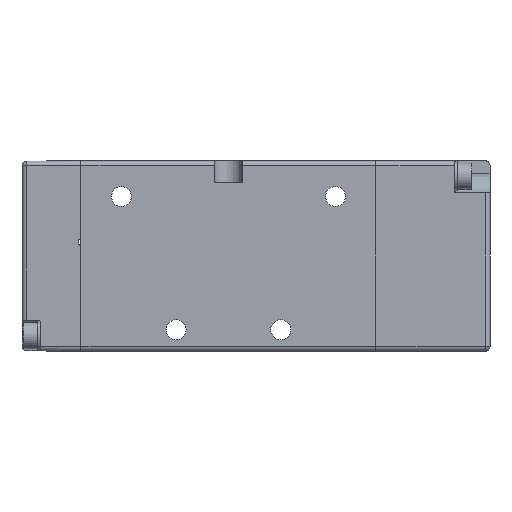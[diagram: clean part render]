
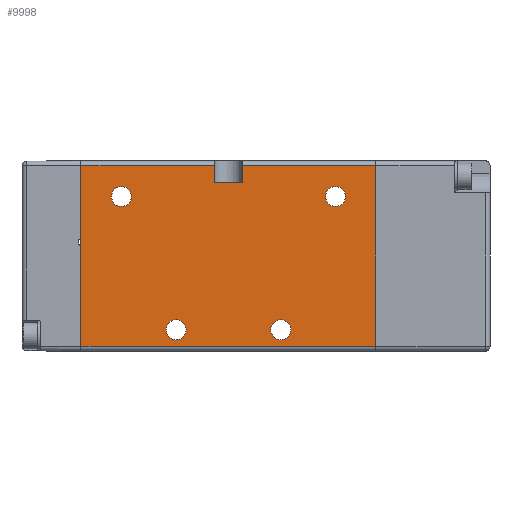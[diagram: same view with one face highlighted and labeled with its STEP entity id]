
A CAD part, front view. The second image highlights one B-rep face of the part: STEP entity #9998.
In plain terms, the highlighted planar face has unit normal (0, -1, 0).
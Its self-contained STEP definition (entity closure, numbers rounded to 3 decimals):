
#254 = LINE ( 'NONE', #3407, #2495 ) ;
#332 = EDGE_LOOP ( 'NONE', ( #2890 ) ) ;
#664 = DIRECTION ( 'NONE',  ( 0., -1., 0. ) ) ;
#776 = DIRECTION ( 'NONE',  ( 1., 0., 0. ) ) ;
#826 = EDGE_CURVE ( 'NONE', #9227, #966, #7982, .T. ) ;
#966 = VERTEX_POINT ( 'NONE', #3058 ) ;
#1048 = DIRECTION ( 'NONE',  ( 1., 0., 0. ) ) ;
#1065 = CARTESIAN_POINT ( 'NONE',  ( -92.353, -11., -22.9 ) ) ;
#1124 = LINE ( 'NONE', #7132, #9750 ) ;
#1270 = CARTESIAN_POINT ( 'NONE',  ( -12.702, -11., 16.1 ) ) ;
#1311 = EDGE_LOOP ( 'NONE', ( #5613, #5784, #1761, #9463, #10771, #6931, #4910, #9849 ) ) ;
#1378 = DIRECTION ( 'NONE',  ( 0., 0., 1. ) ) ;
#1389 = VERTEX_POINT ( 'NONE', #7060 ) ;
#1518 = DIRECTION ( 'NONE',  ( 1., 0., 0. ) ) ;
#1567 = EDGE_CURVE ( 'NONE', #6389, #6389, #9503, .T. ) ;
#1618 = VECTOR ( 'NONE', #3776, 1000. ) ;
#1701 = EDGE_CURVE ( 'NONE', #6614, #9054, #4370, .T. ) ;
#1715 = CARTESIAN_POINT ( 'NONE',  ( 15.298, -11., -22.9 ) ) ;
#1761 = ORIENTED_EDGE ( 'NONE', *, *, #4016, .T. ) ;
#1913 = DIRECTION ( 'NONE',  ( -1., 0., 0. ) ) ;
#2110 = DIRECTION ( 'NONE',  ( 0., 0., 1. ) ) ;
#2133 = FACE_BOUND ( 'NONE', #6177, .T. ) ;
#2187 = VECTOR ( 'NONE', #8373, 1000. ) ;
#2348 = VECTOR ( 'NONE', #1048, 1000. ) ;
#2385 = CARTESIAN_POINT ( 'NONE',  ( -46.702, -11., -21.9 ) ) ;
#2423 = CARTESIAN_POINT ( 'NONE',  ( -4.702, -11., -18.4 ) ) ;
#2495 = VECTOR ( 'NONE', #10099, 1000. ) ;
#2588 = CIRCLE ( 'NONE', #8910, 2.1 ) ;
#2589 = CARTESIAN_POINT ( 'NONE',  ( -92.353, -11., 16.1 ) ) ;
#2624 = LINE ( 'NONE', #5985, #2348 ) ;
#2748 = CIRCLE ( 'NONE', #9844, 2.1 ) ;
#2889 = EDGE_CURVE ( 'NONE', #6614, #9227, #254, .T. ) ;
#2890 = ORIENTED_EDGE ( 'NONE', *, *, #6668, .F. ) ;
#2898 = CARTESIAN_POINT ( 'NONE',  ( -2.602, -11., -18.4 ) ) ;
#2983 = EDGE_CURVE ( 'NONE', #1389, #7572, #2624, .T. ) ;
#3058 = CARTESIAN_POINT ( 'NONE',  ( 15.298, -11., 16.1 ) ) ;
#3115 = EDGE_CURVE ( 'NONE', #10083, #10083, #2748, .T. ) ;
#3243 = DIRECTION ( 'NONE',  ( 1., 0., 0. ) ) ;
#3319 = EDGE_CURVE ( 'NONE', #5603, #5603, #2588, .T. ) ;
#3407 = CARTESIAN_POINT ( 'NONE',  ( -92.353, -11., -21.9 ) ) ;
#3408 = DIRECTION ( 'NONE',  ( -1., 0., 0. ) ) ;
#3531 = VERTEX_POINT ( 'NONE', #1270 ) ;
#3600 = EDGE_CURVE ( 'NONE', #7572, #3531, #1124, .T. ) ;
#3771 = ORIENTED_EDGE ( 'NONE', *, *, #3115, .F. ) ;
#3776 = DIRECTION ( 'NONE',  ( 0., 0., 1. ) ) ;
#4016 = EDGE_CURVE ( 'NONE', #9869, #9054, #6425, .T. ) ;
#4049 = FACE_BOUND ( 'NONE', #8560, .T. ) ;
#4319 = FACE_BOUND ( 'NONE', #332, .T. ) ;
#4370 = LINE ( 'NONE', #8525, #2187 ) ;
#4401 = CARTESIAN_POINT ( 'NONE',  ( -24.602, -11., -18.4 ) ) ;
#4434 = CARTESIAN_POINT ( 'NONE',  ( 8.898, -11., 9.6 ) ) ;
#4465 = ORIENTED_EDGE ( 'NONE', *, *, #1567, .F. ) ;
#4490 = CARTESIAN_POINT ( 'NONE',  ( -46.702, -11., 16.1 ) ) ;
#4910 = ORIENTED_EDGE ( 'NONE', *, *, #8326, .T. ) ;
#5020 = CIRCLE ( 'NONE', #9745, 2.1 ) ;
#5079 = VECTOR ( 'NONE', #6509, 1000. ) ;
#5279 = CARTESIAN_POINT ( 'NONE',  ( -36.102, -11., 9.6 ) ) ;
#5603 = VERTEX_POINT ( 'NONE', #5279 ) ;
#5613 = ORIENTED_EDGE ( 'NONE', *, *, #2983, .F. ) ;
#5638 = CARTESIAN_POINT ( 'NONE',  ( 6.798, -11., 9.6 ) ) ;
#5751 = DIRECTION ( 'NONE',  ( 0., -1., 0. ) ) ;
#5784 = ORIENTED_EDGE ( 'NONE', *, *, #8225, .T. ) ;
#5851 = LINE ( 'NONE', #7912, #8075 ) ;
#5887 = EDGE_LOOP ( 'NONE', ( #3771 ) ) ;
#5985 = CARTESIAN_POINT ( 'NONE',  ( -12.702, -11., 12.5 ) ) ;
#6177 = EDGE_LOOP ( 'NONE', ( #9330 ) ) ;
#6279 = FACE_BOUND ( 'NONE', #5887, .T. ) ;
#6389 = VERTEX_POINT ( 'NONE', #4401 ) ;
#6425 = LINE ( 'NONE', #2589, #10395 ) ;
#6468 = DIRECTION ( 'NONE',  ( 1., 0., 0. ) ) ;
#6470 = CARTESIAN_POINT ( 'NONE',  ( -26.702, -11., -18.4 ) ) ;
#6509 = DIRECTION ( 'NONE',  ( -1., 0., 0. ) ) ;
#6614 = VERTEX_POINT ( 'NONE', #2385 ) ;
#6668 = EDGE_CURVE ( 'NONE', #8220, #8220, #5020, .T. ) ;
#6858 = DIRECTION ( 'NONE',  ( 0., 1., 0. ) ) ;
#6870 = AXIS2_PLACEMENT_3D ( 'NONE', #6470, #7308, #1518 ) ;
#6931 = ORIENTED_EDGE ( 'NONE', *, *, #826, .T. ) ;
#7060 = CARTESIAN_POINT ( 'NONE',  ( -18.702, -11., 12.5 ) ) ;
#7132 = CARTESIAN_POINT ( 'NONE',  ( -12.702, -11., 12.5 ) ) ;
#7251 = CARTESIAN_POINT ( 'NONE',  ( -12.702, -11., 12.5 ) ) ;
#7308 = DIRECTION ( 'NONE',  ( 0., -1., 0. ) ) ;
#7572 = VERTEX_POINT ( 'NONE', #7251 ) ;
#7912 = CARTESIAN_POINT ( 'NONE',  ( -18.702, -11., 12.5 ) ) ;
#7982 = LINE ( 'NONE', #1715, #1618 ) ;
#8075 = VECTOR ( 'NONE', #2110, 1000. ) ;
#8220 = VERTEX_POINT ( 'NONE', #2898 ) ;
#8225 = EDGE_CURVE ( 'NONE', #1389, #9869, #5851, .T. ) ;
#8232 = DIRECTION ( 'NONE',  ( 0., -1., 0. ) ) ;
#8326 = EDGE_CURVE ( 'NONE', #966, #3531, #9549, .T. ) ;
#8373 = DIRECTION ( 'NONE',  ( 0., 0., 1. ) ) ;
#8521 = FACE_OUTER_BOUND ( 'NONE', #1311, .T. ) ;
#8525 = CARTESIAN_POINT ( 'NONE',  ( -46.702, -11., -22.9 ) ) ;
#8542 = PLANE ( 'NONE',  #10147 ) ;
#8560 = EDGE_LOOP ( 'NONE', ( #4465 ) ) ;
#8873 = CARTESIAN_POINT ( 'NONE',  ( 15.298, -11., -21.9 ) ) ;
#8910 = AXIS2_PLACEMENT_3D ( 'NONE', #10786, #5751, #776 ) ;
#9054 = VERTEX_POINT ( 'NONE', #4490 ) ;
#9227 = VERTEX_POINT ( 'NONE', #8873 ) ;
#9241 = CARTESIAN_POINT ( 'NONE',  ( -18.702, -11., 16.1 ) ) ;
#9330 = ORIENTED_EDGE ( 'NONE', *, *, #3319, .F. ) ;
#9463 = ORIENTED_EDGE ( 'NONE', *, *, #1701, .F. ) ;
#9503 = CIRCLE ( 'NONE', #6870, 2.1 ) ;
#9549 = LINE ( 'NONE', #10737, #5079 ) ;
#9745 = AXIS2_PLACEMENT_3D ( 'NONE', #2423, #8232, #3243 ) ;
#9750 = VECTOR ( 'NONE', #1378, 1000. ) ;
#9844 = AXIS2_PLACEMENT_3D ( 'NONE', #5638, #664, #6468 ) ;
#9849 = ORIENTED_EDGE ( 'NONE', *, *, #3600, .F. ) ;
#9869 = VERTEX_POINT ( 'NONE', #9241 ) ;
#9998 = ADVANCED_FACE ( 'NONE', ( #4049, #4319, #6279, #2133, #8521 ), #8542, .F. ) ;
#10083 = VERTEX_POINT ( 'NONE', #4434 ) ;
#10099 = DIRECTION ( 'NONE',  ( 1., 0., 0. ) ) ;
#10147 = AXIS2_PLACEMENT_3D ( 'NONE', #1065, #6858, #1913 ) ;
#10395 = VECTOR ( 'NONE', #3408, 1000. ) ;
#10737 = CARTESIAN_POINT ( 'NONE',  ( -92.353, -11., 16.1 ) ) ;
#10771 = ORIENTED_EDGE ( 'NONE', *, *, #2889, .T. ) ;
#10786 = CARTESIAN_POINT ( 'NONE',  ( -38.202, -11., 9.6 ) ) ;
